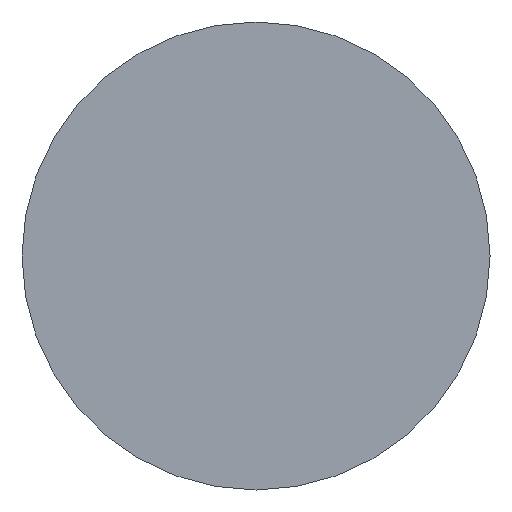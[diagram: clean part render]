
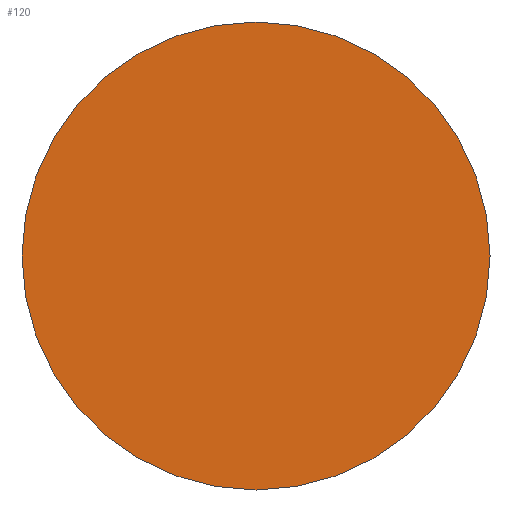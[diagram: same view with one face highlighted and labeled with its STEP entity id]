
A CAD part, front view. The second image highlights one B-rep face of the part: STEP entity #120.
In plain terms, the highlighted planar face has unit normal (0, -1, 0).
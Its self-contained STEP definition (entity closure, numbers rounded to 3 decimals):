
#1 = DIRECTION ( 'NONE',  ( 0., 0., 1. ) ) ;
#8 = DIRECTION ( 'NONE',  ( 0., 0., 1. ) ) ;
#17 = CARTESIAN_POINT ( 'NONE',  ( 0., 0., -11. ) ) ;
#38 = AXIS2_PLACEMENT_3D ( 'NONE', #127, #161, #284 ) ;
#77 = VERTEX_POINT ( 'NONE', #300 ) ;
#78 = CARTESIAN_POINT ( 'NONE',  ( 0., 0., 0. ) ) ;
#80 = AXIS2_PLACEMENT_3D ( 'NONE', #339, #183, #1 ) ;
#90 = EDGE_LOOP ( 'NONE', ( #301, #383 ) ) ;
#92 = FACE_OUTER_BOUND ( 'NONE', #90, .T. ) ;
#108 = DIRECTION ( 'NONE',  ( 0., 1., 0. ) ) ;
#120 = ADVANCED_FACE ( 'NONE', ( #92 ), #181, .F. ) ;
#127 = CARTESIAN_POINT ( 'NONE',  ( 0., 0., 0. ) ) ;
#152 = AXIS2_PLACEMENT_3D ( 'NONE', #78, #108, #8 ) ;
#161 = DIRECTION ( 'NONE',  ( 0., 1., 0. ) ) ;
#181 = PLANE ( 'NONE',  #80 ) ;
#183 = DIRECTION ( 'NONE',  ( 0., 1., 0. ) ) ;
#218 = CIRCLE ( 'NONE', #152, 11. ) ;
#246 = EDGE_CURVE ( 'NONE', #77, #361, #218, .T. ) ;
#272 = EDGE_CURVE ( 'NONE', #361, #77, #314, .T. ) ;
#284 = DIRECTION ( 'NONE',  ( 0., 0., 1. ) ) ;
#300 = CARTESIAN_POINT ( 'NONE',  ( 0., 0., 11. ) ) ;
#301 = ORIENTED_EDGE ( 'NONE', *, *, #272, .F. ) ;
#314 = CIRCLE ( 'NONE', #38, 11. ) ;
#339 = CARTESIAN_POINT ( 'NONE',  ( 0., 0., 0. ) ) ;
#361 = VERTEX_POINT ( 'NONE', #17 ) ;
#383 = ORIENTED_EDGE ( 'NONE', *, *, #246, .F. ) ;
